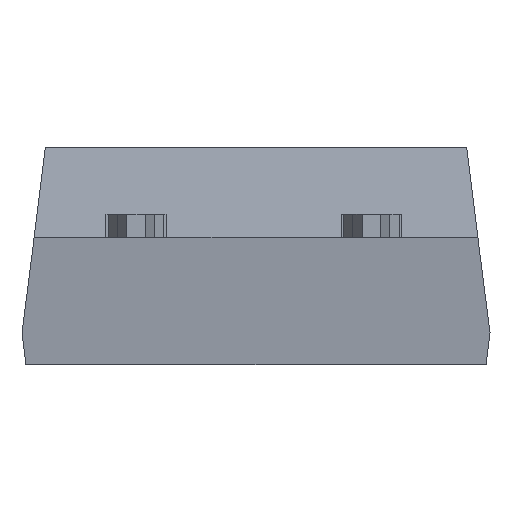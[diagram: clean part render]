
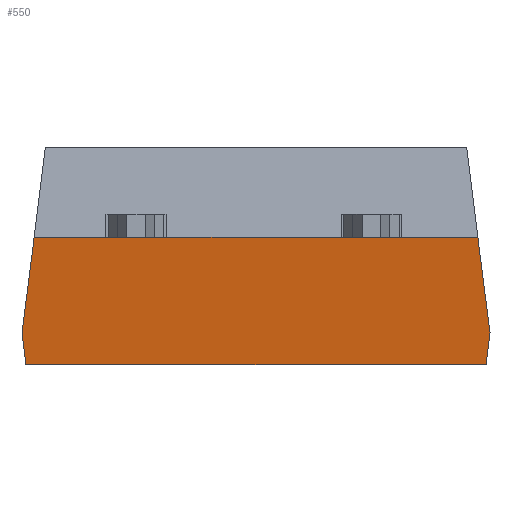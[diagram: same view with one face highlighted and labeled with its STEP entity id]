
A CAD part, front view. The second image highlights one B-rep face of the part: STEP entity #550.
In plain terms, the highlighted planar face has unit normal (0, -0.992, -0.127).
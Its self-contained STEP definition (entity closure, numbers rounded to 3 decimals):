
#1 = VERTEX_POINT ( 'NONE', #13157 ) ;
#2 = EDGE_CURVE ( 'NONE', #2728, #1, #13156, .T. ) ;
#92 = CARTESIAN_POINT ( 'NONE',  ( 4.964, -7.582, 0. ) ) ;
#171 = ORIENTED_EDGE ( 'NONE', *, *, #2, .F. ) ;
#223 = DIRECTION ( 'NONE',  ( 0.122, 0.126, -0.984 ) ) ;
#224 = VECTOR ( 'NONE', #223, 1000. ) ;
#225 = CARTESIAN_POINT ( 'NONE',  ( 4.613, -8.116, 4.162 ) ) ;
#226 = LINE ( 'NONE', #225, #224 ) ;
#227 = CARTESIAN_POINT ( 'NONE',  ( 5.05, -7.672, 0.7 ) ) ;
#232 = DIRECTION ( 'NONE',  ( 0.126, 0.126, -0.984 ) ) ;
#233 = VECTOR ( 'NONE', #232, 1000. ) ;
#234 = CARTESIAN_POINT ( 'NONE',  ( 4.602, -8.122, 4.203 ) ) ;
#235 = LINE ( 'NONE', #234, #233 ) ;
#236 = DIRECTION ( 'NONE',  ( -0.121, 0.126, -0.985 ) ) ;
#237 = VECTOR ( 'NONE', #236, 1000. ) ;
#238 = CARTESIAN_POINT ( 'NONE',  ( 5.123, -7.748, 1.292 ) ) ;
#239 = LINE ( 'NONE', #238, #237 ) ;
#276 = DIRECTION ( 'NONE',  ( 0., 0.127, -0.992 ) ) ;
#277 = DIRECTION ( 'NONE',  ( 0., -0.992, -0.127 ) ) ;
#278 = AXIS2_PLACEMENT_3D ( 'NONE', #279, #277, #276 ) ;
#279 = CARTESIAN_POINT ( 'NONE',  ( -6.95, -7.935, 2.75 ) ) ;
#280 = PLANE ( 'NONE',  #278 ) ;
#281 = FACE_OUTER_BOUND ( 'NONE', #556, .T. ) ;
#293 = CARTESIAN_POINT ( 'NONE',  ( 4.801, -7.922, 2.65 ) ) ;
#294 = CARTESIAN_POINT ( 'NONE',  ( -4.964, -7.582, 0. ) ) ;
#302 = DIRECTION ( 'NONE',  ( -1., 0., 0. ) ) ;
#303 = VECTOR ( 'NONE', #302, 1000. ) ;
#304 = CARTESIAN_POINT ( 'NONE',  ( -5.05, -7.582, 0. ) ) ;
#305 = LINE ( 'NONE', #304, #303 ) ;
#513 = VERTEX_POINT ( 'NONE', #92 ) ;
#541 = EDGE_CURVE ( 'NONE', #544, #513, #239, .T. ) ;
#542 = EDGE_CURVE ( 'NONE', #2731, #544, #235, .T. ) ;
#544 = VERTEX_POINT ( 'NONE', #227 ) ;
#545 = EDGE_CURVE ( 'NONE', #10261, #2731, #226, .T. ) ;
#549 = ORIENTED_EDGE ( 'NONE', *, *, #541, .F. ) ;
#550 = ADVANCED_FACE ( 'NONE', ( #281 ), #280, .T. ) ;
#556 = EDGE_LOOP ( 'NONE', ( #171, #557, #549, #2734, #558, #10106, #10046, #10104, #10105, #10045, #10102, #10114 ) ) ;
#557 = ORIENTED_EDGE ( 'NONE', *, *, #590, .F. ) ;
#558 = ORIENTED_EDGE ( 'NONE', *, *, #545, .F. ) ;
#590 = EDGE_CURVE ( 'NONE', #513, #2728, #305, .T. ) ;
#2728 = VERTEX_POINT ( 'NONE', #294 ) ;
#2731 = VERTEX_POINT ( 'NONE', #293 ) ;
#2734 = ORIENTED_EDGE ( 'NONE', *, *, #542, .F. ) ;
#4751 = CARTESIAN_POINT ( 'NONE',  ( -4.801, -7.922, 2.65 ) ) ;
#4773 = DIRECTION ( 'NONE',  ( 1., 0., 0. ) ) ;
#4774 = VECTOR ( 'NONE', #4773, 1000. ) ;
#4775 = CARTESIAN_POINT ( 'NONE',  ( -6.95, -7.935, 2.75 ) ) ;
#4776 = LINE ( 'NONE', #4775, #4774 ) ;
#4778 = DIRECTION ( 'NONE',  ( 1., 0., 0. ) ) ;
#4779 = VECTOR ( 'NONE', #4778, 1000. ) ;
#4780 = CARTESIAN_POINT ( 'NONE',  ( -6.95, -7.935, 2.75 ) ) ;
#4781 = LINE ( 'NONE', #4780, #4779 ) ;
#4886 = DIRECTION ( 'NONE',  ( 0.126, -0.126, 0.984 ) ) ;
#4887 = VECTOR ( 'NONE', #4886, 1000. ) ;
#4888 = CARTESIAN_POINT ( 'NONE',  ( -4.822, -7.901, 2.482 ) ) ;
#4889 = LINE ( 'NONE', #4888, #4887 ) ;
#4914 = DIRECTION ( 'NONE',  ( 0.122, -0.126, 0.984 ) ) ;
#4915 = VECTOR ( 'NONE', #4914, 1000. ) ;
#4916 = CARTESIAN_POINT ( 'NONE',  ( -4.821, -7.902, 2.49 ) ) ;
#4917 = LINE ( 'NONE', #4916, #4915 ) ;
#5202 = CARTESIAN_POINT ( 'NONE',  ( -4.788, -7.935, 2.75 ) ) ;
#5203 = CARTESIAN_POINT ( 'NONE',  ( -3.19, -7.935, 2.75 ) ) ;
#5204 = DIRECTION ( 'NONE',  ( 1., 0., 0. ) ) ;
#5205 = VECTOR ( 'NONE', #5204, 1000. ) ;
#5206 = CARTESIAN_POINT ( 'NONE',  ( -6.95, -7.935, 2.75 ) ) ;
#5207 = LINE ( 'NONE', #5206, #5205 ) ;
#5212 = CARTESIAN_POINT ( 'NONE',  ( 4.788, -7.935, 2.75 ) ) ;
#5224 = DIRECTION ( 'NONE',  ( 1., 0., 0. ) ) ;
#5225 = VECTOR ( 'NONE', #5224, 1000. ) ;
#5226 = CARTESIAN_POINT ( 'NONE',  ( -6.95, -7.935, 2.75 ) ) ;
#5227 = LINE ( 'NONE', #5226, #5225 ) ;
#5241 = CARTESIAN_POINT ( 'NONE',  ( -1.99, -7.935, 2.75 ) ) ;
#5242 = CARTESIAN_POINT ( 'NONE',  ( 3.09, -7.935, 2.75 ) ) ;
#5249 = DIRECTION ( 'NONE',  ( 1., 0., 0. ) ) ;
#5250 = VECTOR ( 'NONE', #5249, 1000. ) ;
#5251 = CARTESIAN_POINT ( 'NONE',  ( -6.95, -7.935, 2.75 ) ) ;
#5252 = LINE ( 'NONE', #5251, #5250 ) ;
#5253 = CARTESIAN_POINT ( 'NONE',  ( 1.89, -7.935, 2.75 ) ) ;
#10035 = VERTEX_POINT ( 'NONE', #4751 ) ;
#10043 = EDGE_CURVE ( 'NONE', #10272, #10278, #4781, .T. ) ;
#10044 = EDGE_CURVE ( 'NONE', #10264, #10280, #4776, .T. ) ;
#10045 = ORIENTED_EDGE ( 'NONE', *, *, #10263, .F. ) ;
#10046 = ORIENTED_EDGE ( 'NONE', *, *, #10043, .F. ) ;
#10102 = ORIENTED_EDGE ( 'NONE', *, *, #10103, .F. ) ;
#10103 = EDGE_CURVE ( 'NONE', #10035, #10265, #4917, .T. ) ;
#10104 = ORIENTED_EDGE ( 'NONE', *, *, #10274, .F. ) ;
#10105 = ORIENTED_EDGE ( 'NONE', *, *, #10044, .F. ) ;
#10106 = ORIENTED_EDGE ( 'NONE', *, *, #10259, .F. ) ;
#10114 = ORIENTED_EDGE ( 'NONE', *, *, #10115, .F. ) ;
#10115 = EDGE_CURVE ( 'NONE', #1, #10035, #4889, .T. ) ;
#10259 = EDGE_CURVE ( 'NONE', #10278, #10261, #5227, .T. ) ;
#10261 = VERTEX_POINT ( 'NONE', #5212 ) ;
#10263 = EDGE_CURVE ( 'NONE', #10265, #10264, #5207, .T. ) ;
#10264 = VERTEX_POINT ( 'NONE', #5203 ) ;
#10265 = VERTEX_POINT ( 'NONE', #5202 ) ;
#10272 = VERTEX_POINT ( 'NONE', #5253 ) ;
#10274 = EDGE_CURVE ( 'NONE', #10280, #10272, #5252, .T. ) ;
#10278 = VERTEX_POINT ( 'NONE', #5242 ) ;
#10280 = VERTEX_POINT ( 'NONE', #5241 ) ;
#13153 = DIRECTION ( 'NONE',  ( -0.121, -0.126, 0.985 ) ) ;
#13154 = VECTOR ( 'NONE', #13153, 1000. ) ;
#13155 = CARTESIAN_POINT ( 'NONE',  ( -5.326, -7.96, 2.946 ) ) ;
#13156 = LINE ( 'NONE', #13155, #13154 ) ;
#13157 = CARTESIAN_POINT ( 'NONE',  ( -5.05, -7.672, 0.7 ) ) ;
